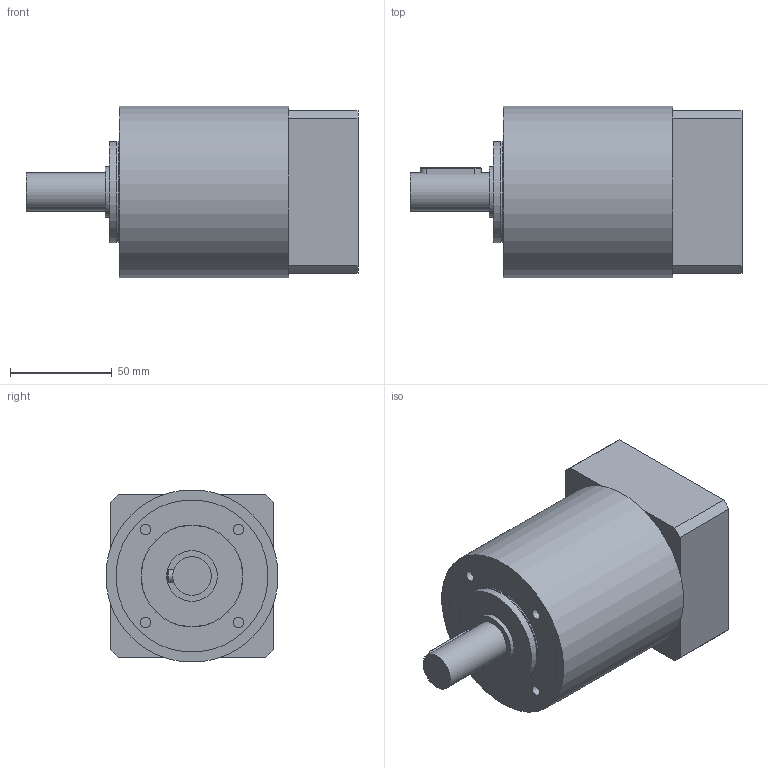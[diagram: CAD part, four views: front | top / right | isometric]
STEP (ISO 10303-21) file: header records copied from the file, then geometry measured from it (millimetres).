
FILE_DESCRIPTION(/* description */ (''),/* implementation_level */ '2;1');
FILE_NAME(/* name */ 'E0001806MP101007100123',/* time_stamp */ '2007-10-10T10:03:21+02:00',/* author */ (''),/* organization */ (''),/* preprocessor_version */ 'ST-DEVELOPER v9',/* originating_system */ 'EDS PLM SOLUTIONS - UNIGRAPHICS NX 2.0',/* authorisation */ '');
FILE_SCHEMA (('CONFIG_CONTROL_DESIGN'));
Length unit declared in the file: millimetre
Products named in the file (1): E0001806MP101007100123_u3d
Bounding box: 163.5 x 84.68 x 84.68 mm (x, y, z)
Volume: 865212.7 mm3; surface area: 116594.6 mm2
Topology: 8 solids, 8 shells, 100 faces, 211 edges, 139 vertices
Faces by surface type: plane 44, cylinder 40, cone 13, torus 3
Full cylindrical faces by diameter (mm): 4.351 x4, 5.188 x6, 6.2 x1, 6.5 x1, 10.5 x1, 13.75 x1, 19 x2, 23 x1, 25 x2, 50 x1, 52 x1, 63.9 x1, 67.96 x1, 68 x1, 70 x1, 70.9 x1, 74.95 x1, 75 x2, 85 x1
Entity records: 2462 total; most frequent: CARTESIAN_POINT 432, DIRECTION 430, ORIENTED_EDGE 292, AXIS2_PLACEMENT_3D 186, EDGE_LOOP 164, EDGE_CURVE 146, VERTEX_POINT 124, FACE_BOUND 105
